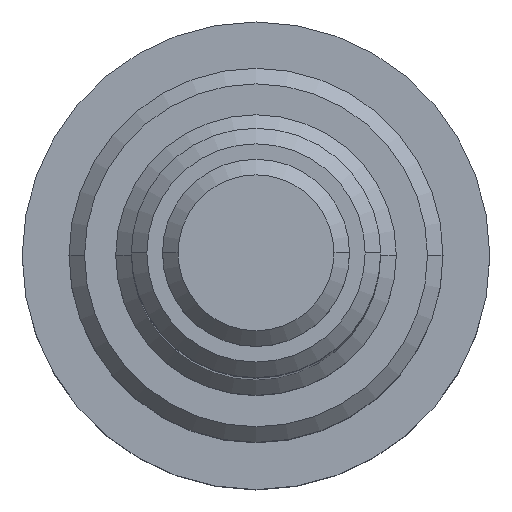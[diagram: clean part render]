
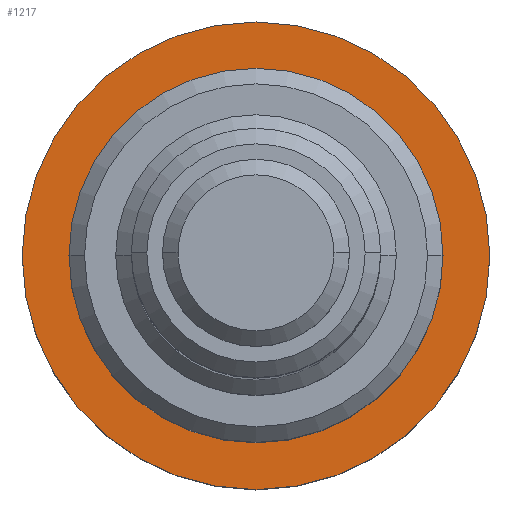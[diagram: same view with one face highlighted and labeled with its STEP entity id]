
A CAD part, top view. The second image highlights one B-rep face of the part: STEP entity #1217.
In plain terms, the highlighted planar face has unit normal (0, 0, 1).
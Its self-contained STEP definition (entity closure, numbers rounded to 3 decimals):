
#68 = VERTEX_POINT ( 'NONE', #1193 ) ;
#160 = CIRCLE ( 'NONE', #710, 7.5 ) ;
#174 = ORIENTED_EDGE ( 'NONE', *, *, #642, .T. ) ;
#177 = EDGE_CURVE ( 'NONE', #358, #68, #962, .T. ) ;
#186 = DIRECTION ( 'NONE',  ( 0., 0., 1. ) ) ;
#189 = EDGE_LOOP ( 'NONE', ( #174, #334 ) ) ;
#226 = EDGE_CURVE ( 'NONE', #68, #358, #1175, .T. ) ;
#284 = DIRECTION ( 'NONE',  ( 1., 0., 0. ) ) ;
#291 = CARTESIAN_POINT ( 'NONE',  ( 0., 0., 17. ) ) ;
#321 = DIRECTION ( 'NONE',  ( 0., 0., 1. ) ) ;
#323 = AXIS2_PLACEMENT_3D ( 'NONE', #752, #321, #1209 ) ;
#334 = ORIENTED_EDGE ( 'NONE', *, *, #1268, .T. ) ;
#358 = VERTEX_POINT ( 'NONE', #744 ) ;
#375 = AXIS2_PLACEMENT_3D ( 'NONE', #291, #486, #284 ) ;
#406 = PLANE ( 'NONE',  #375 ) ;
#430 = CARTESIAN_POINT ( 'NONE',  ( 0., 0., 17. ) ) ;
#486 = DIRECTION ( 'NONE',  ( 0., 0., 1. ) ) ;
#513 = AXIS2_PLACEMENT_3D ( 'NONE', #430, #877, #1336 ) ;
#518 = VERTEX_POINT ( 'NONE', #882 ) ;
#572 = ORIENTED_EDGE ( 'NONE', *, *, #177, .F. ) ;
#642 = EDGE_CURVE ( 'NONE', #780, #518, #1107, .T. ) ;
#710 = AXIS2_PLACEMENT_3D ( 'NONE', #1235, #186, #761 ) ;
#744 = CARTESIAN_POINT ( 'NONE',  ( -6., 0., 17. ) ) ;
#752 = CARTESIAN_POINT ( 'NONE',  ( 0., 0., 17. ) ) ;
#761 = DIRECTION ( 'NONE',  ( 1., 0., 0. ) ) ;
#780 = VERTEX_POINT ( 'NONE', #1090 ) ;
#810 = DIRECTION ( 'NONE',  ( 1., 0., 0. ) ) ;
#849 = FACE_BOUND ( 'NONE', #1273, .T. ) ;
#877 = DIRECTION ( 'NONE',  ( 0., 0., 1. ) ) ;
#882 = CARTESIAN_POINT ( 'NONE',  ( 7.5, 0., 17. ) ) ;
#920 = CARTESIAN_POINT ( 'NONE',  ( 0., 0., 17. ) ) ;
#962 = CIRCLE ( 'NONE', #323, 6. ) ;
#963 = AXIS2_PLACEMENT_3D ( 'NONE', #920, #1282, #810 ) ;
#1090 = CARTESIAN_POINT ( 'NONE',  ( -7.5, 0., 17. ) ) ;
#1107 = CIRCLE ( 'NONE', #963, 7.5 ) ;
#1175 = CIRCLE ( 'NONE', #513, 6. ) ;
#1193 = CARTESIAN_POINT ( 'NONE',  ( 6., 0., 17. ) ) ;
#1209 = DIRECTION ( 'NONE',  ( 1., 0., 0. ) ) ;
#1217 = ADVANCED_FACE ( 'NONE', ( #849, #1310 ), #406, .T. ) ;
#1235 = CARTESIAN_POINT ( 'NONE',  ( 0., 0., 17. ) ) ;
#1268 = EDGE_CURVE ( 'NONE', #518, #780, #160, .T. ) ;
#1273 = EDGE_LOOP ( 'NONE', ( #572, #1339 ) ) ;
#1282 = DIRECTION ( 'NONE',  ( 0., 0., 1. ) ) ;
#1310 = FACE_OUTER_BOUND ( 'NONE', #189, .T. ) ;
#1336 = DIRECTION ( 'NONE',  ( 1., 0., 0. ) ) ;
#1339 = ORIENTED_EDGE ( 'NONE', *, *, #226, .F. ) ;
